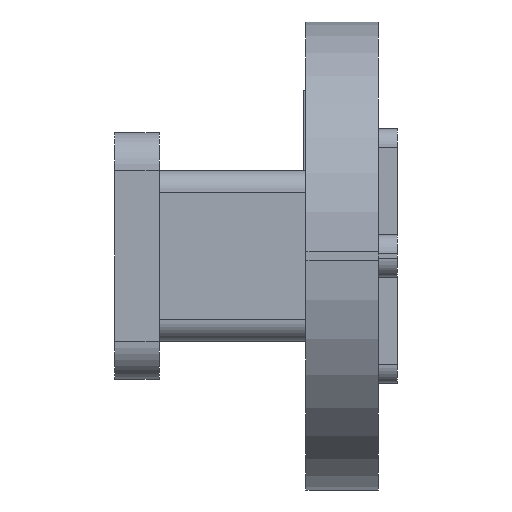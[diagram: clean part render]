
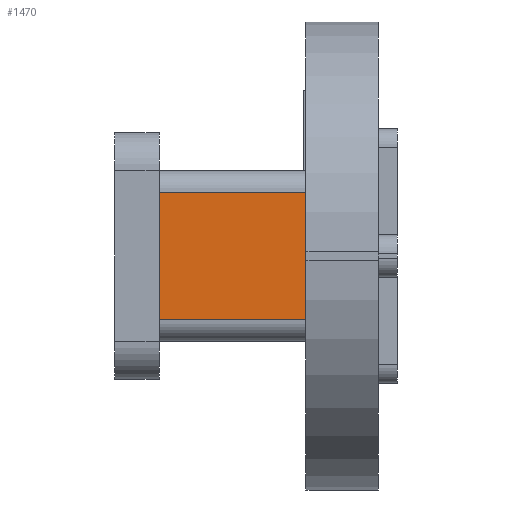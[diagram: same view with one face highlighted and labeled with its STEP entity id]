
A CAD part, front view. The second image highlights one B-rep face of the part: STEP entity #1470.
In plain terms, the highlighted planar face has unit normal (0, -1, 0).
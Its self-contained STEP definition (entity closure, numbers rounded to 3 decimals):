
#48=PLANE('',#1606);
#112=FACE_OUTER_BOUND('',#196,.T.);
#196=EDGE_LOOP('',(#1215,#1216,#1217,#1218));
#318=LINE('',#2348,#470);
#331=LINE('',#2386,#483);
#333=LINE('',#2393,#485);
#334=LINE('',#2394,#486);
#470=VECTOR('',#1888,1.);
#483=VECTOR('',#1929,1.);
#485=VECTOR('',#1937,1.);
#486=VECTOR('',#1938,1.);
#689=VERTEX_POINT('',#2345);
#690=VERTEX_POINT('',#2347);
#701=VERTEX_POINT('',#2384);
#703=VERTEX_POINT('',#2392);
#865=EDGE_CURVE('',#689,#690,#318,.T.);
#884=EDGE_CURVE('',#690,#701,#331,.T.);
#887=EDGE_CURVE('',#703,#701,#333,.T.);
#888=EDGE_CURVE('',#689,#703,#334,.T.);
#1215=ORIENTED_EDGE('',*,*,#887,.T.);
#1216=ORIENTED_EDGE('',*,*,#884,.F.);
#1217=ORIENTED_EDGE('',*,*,#865,.F.);
#1218=ORIENTED_EDGE('',*,*,#888,.T.);
#1470=ADVANCED_FACE('',(#112),#48,.T.);
#1606=AXIS2_PLACEMENT_3D('',#2391,#1935,#1936);
#1888=DIRECTION('',(0.,0.,-1.));
#1929=DIRECTION('',(-1.,0.,0.));
#1935=DIRECTION('center_axis',(0.,-1.,0.));
#1936=DIRECTION('ref_axis',(0.,0.,1.));
#1937=DIRECTION('',(0.,0.,-1.));
#1938=DIRECTION('',(-1.,0.,0.));
#2345=CARTESIAN_POINT('',(39.3,15.6,-10.5));
#2347=CARTESIAN_POINT('',(39.3,15.6,-13.5));
#2348=CARTESIAN_POINT('',(39.3,15.6,-12.75));
#2384=CARTESIAN_POINT('',(35.85,15.6,-13.5));
#2386=CARTESIAN_POINT('',(39.5,15.6,-13.5));
#2391=CARTESIAN_POINT('Origin',(39.5,15.6,-13.5));
#2392=CARTESIAN_POINT('',(35.85,15.6,-10.5));
#2393=CARTESIAN_POINT('',(35.85,15.6,-12.75));
#2394=CARTESIAN_POINT('',(39.5,15.6,-10.5));
